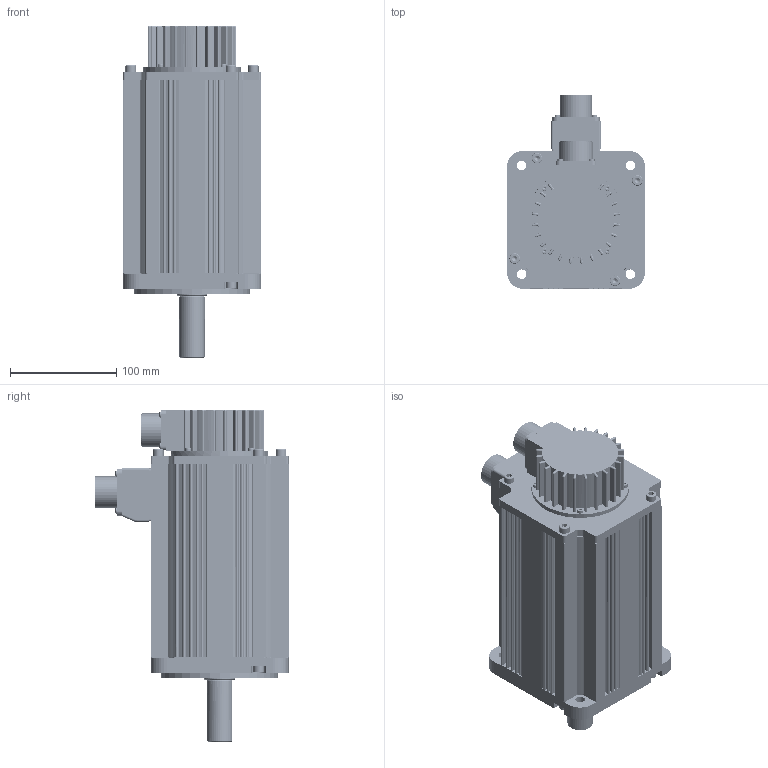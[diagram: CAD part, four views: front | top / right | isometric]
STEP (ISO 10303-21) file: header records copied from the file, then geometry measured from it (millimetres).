
FILE_DESCRIPTION((''),'2;1');
FILE_NAME('PH2-L13C230XXXX0A_ASM','2019-08-22T',('jiangfei6'),(''),'CREO PARAMETRIC BY PTC INC, 2015480','CREO PARAMETRIC BY PTC INC, 2015480','');
FILE_SCHEMA(('CONFIG_CONTROL_DESIGN'));
Products named in the file (17): 80Q0004601_AF0_1; 80D5003401_1; 80D2003101_1; 80D2003201_AF0_1_1; 80D2003201_AF0_1_2; 80D2003201_AF0_1_ASM; 80D2000901_1; MJ01-8038_1; 80S6003601_1; 80G6000501_1; 80G3000901_1; MJ01-8042_1; 80G3000501_1; MJ01-8033_1; MJ01-8041_1; R130-5KW_ASM_1_ASM; PH2-L13C230XXXX0A_ASM
Assembly tree (32 placements, depth 4):
  PH2-L13C230XXXX0A_ASM
    R130-5KW_ASM_1_ASM
      80Q0004601_AF0_1
      80D5003401_1
      80D2003101_1
      80D2003201_AF0_1_ASM
        80D2003201_AF0_1_1
        80D2003201_AF0_1_2
      80D2000901_1
      MJ01-8038_1  x8
      80S6003601_1
      80G6000501_1
      80G3000901_1
      MJ01-8042_1  x4
      80G3000501_1
      MJ01-8033_1  x4
      MJ01-8041_1  x4
Bounding box: 130 x 182.15 x 313.05 mm (x, y, z)
Volume: 821554.9 mm3; surface area: 405035.4 mm2
Topology: 29 solids, 55 shells, 6291 faces, 14175 edges, 7943 vertices
Faces by surface type: cone 2743, cylinder 2433, plane 973, sphere 100, torus 24, bspline 18
Entity records: 82820 total; most frequent: CARTESIAN_POINT 16020, DIRECTION 14976, ORIENTED_EDGE 13316, EDGE_CURVE 6719, AXIS2_PLACEMENT_3D 5761, VERTEX_POINT 4142, VECTOR 3454, LINE 3454
